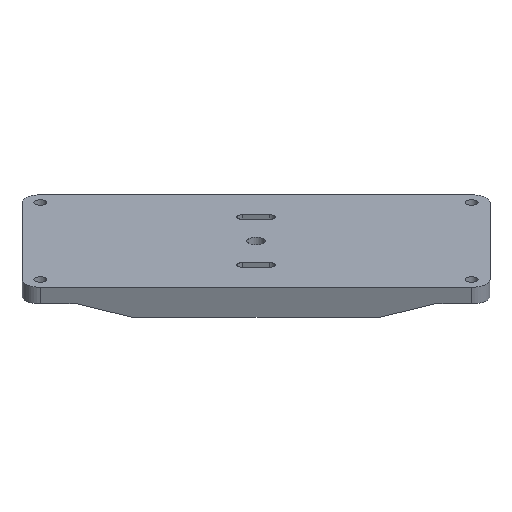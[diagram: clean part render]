
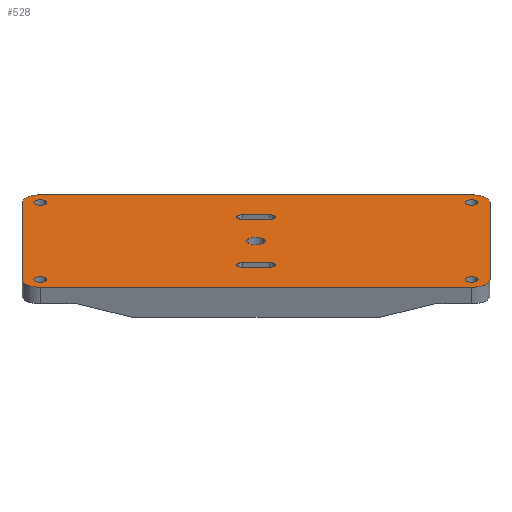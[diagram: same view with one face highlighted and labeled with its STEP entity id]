
A CAD part, top view. The second image highlights one B-rep face of the part: STEP entity #528.
In plain terms, the highlighted planar face has unit normal (0, 0.906, 0.423).
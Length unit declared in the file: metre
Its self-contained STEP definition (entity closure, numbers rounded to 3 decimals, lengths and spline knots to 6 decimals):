
#38=LINE('',#851,#82);
#39=LINE('',#856,#83);
#40=LINE('',#860,#84);
#41=LINE('',#864,#85);
#42=LINE('',#867,#86);
#43=LINE('',#872,#87);
#44=LINE('',#875,#88);
#45=LINE('',#880,#89);
#82=VECTOR('',#684,1.);
#83=VECTOR('',#687,1.);
#84=VECTOR('',#690,1.);
#85=VECTOR('',#693,1.);
#86=VECTOR('',#696,1.);
#87=VECTOR('',#699,1.);
#88=VECTOR('',#702,1.);
#89=VECTOR('',#705,1.);
#140=ORIENTED_EDGE('',*,*,#284,.T.);
#141=ORIENTED_EDGE('',*,*,#285,.T.);
#142=ORIENTED_EDGE('',*,*,#286,.T.);
#143=ORIENTED_EDGE('',*,*,#287,.T.);
#144=ORIENTED_EDGE('',*,*,#288,.T.);
#145=ORIENTED_EDGE('',*,*,#289,.T.);
#146=ORIENTED_EDGE('',*,*,#290,.T.);
#147=ORIENTED_EDGE('',*,*,#291,.F.);
#148=ORIENTED_EDGE('',*,*,#292,.T.);
#149=ORIENTED_EDGE('',*,*,#293,.F.);
#150=ORIENTED_EDGE('',*,*,#294,.T.);
#151=ORIENTED_EDGE('',*,*,#295,.T.);
#152=ORIENTED_EDGE('',*,*,#296,.T.);
#153=ORIENTED_EDGE('',*,*,#297,.F.);
#154=ORIENTED_EDGE('',*,*,#298,.T.);
#155=ORIENTED_EDGE('',*,*,#299,.F.);
#156=ORIENTED_EDGE('',*,*,#300,.T.);
#157=ORIENTED_EDGE('',*,*,#301,.F.);
#158=ORIENTED_EDGE('',*,*,#302,.T.);
#159=ORIENTED_EDGE('',*,*,#303,.F.);
#160=ORIENTED_EDGE('',*,*,#304,.T.);
#284=EDGE_CURVE('',#356,#356,#396,.F.);
#285=EDGE_CURVE('',#357,#357,#397,.F.);
#286=EDGE_CURVE('',#358,#358,#398,.F.);
#287=EDGE_CURVE('',#359,#359,#399,.F.);
#288=EDGE_CURVE('',#360,#360,#400,.T.);
#289=EDGE_CURVE('',#361,#362,#38,.T.);
#290=EDGE_CURVE('',#362,#363,#401,.T.);
#291=EDGE_CURVE('',#364,#363,#39,.T.);
#292=EDGE_CURVE('',#364,#365,#402,.T.);
#293=EDGE_CURVE('',#366,#365,#40,.T.);
#294=EDGE_CURVE('',#366,#367,#403,.T.);
#295=EDGE_CURVE('',#367,#368,#41,.T.);
#296=EDGE_CURVE('',#368,#361,#404,.T.);
#297=EDGE_CURVE('',#369,#370,#42,.T.);
#298=EDGE_CURVE('',#369,#371,#405,.F.);
#299=EDGE_CURVE('',#372,#371,#43,.T.);
#300=EDGE_CURVE('',#372,#370,#406,.F.);
#301=EDGE_CURVE('',#373,#374,#44,.T.);
#302=EDGE_CURVE('',#373,#375,#407,.F.);
#303=EDGE_CURVE('',#376,#375,#45,.T.);
#304=EDGE_CURVE('',#376,#374,#408,.F.);
#356=VERTEX_POINT('',#842);
#357=VERTEX_POINT('',#844);
#358=VERTEX_POINT('',#846);
#359=VERTEX_POINT('',#848);
#360=VERTEX_POINT('',#850);
#361=VERTEX_POINT('',#852);
#362=VERTEX_POINT('',#853);
#363=VERTEX_POINT('',#855);
#364=VERTEX_POINT('',#857);
#365=VERTEX_POINT('',#859);
#366=VERTEX_POINT('',#861);
#367=VERTEX_POINT('',#863);
#368=VERTEX_POINT('',#865);
#369=VERTEX_POINT('',#868);
#370=VERTEX_POINT('',#869);
#371=VERTEX_POINT('',#871);
#372=VERTEX_POINT('',#873);
#373=VERTEX_POINT('',#876);
#374=VERTEX_POINT('',#877);
#375=VERTEX_POINT('',#879);
#376=VERTEX_POINT('',#881);
#396=CIRCLE('',#585,0.0018);
#397=CIRCLE('',#586,0.0018);
#398=CIRCLE('',#587,0.0018);
#399=CIRCLE('',#588,0.0018);
#400=CIRCLE('',#589,0.0025);
#401=CIRCLE('',#590,0.005);
#402=CIRCLE('',#591,0.005);
#403=CIRCLE('',#592,0.005);
#404=CIRCLE('',#593,0.005);
#405=CIRCLE('',#594,0.00149);
#406=CIRCLE('',#595,0.00149);
#407=CIRCLE('',#596,0.00149);
#408=CIRCLE('',#597,0.00149);
#420=EDGE_LOOP('',(#140));
#421=EDGE_LOOP('',(#141));
#422=EDGE_LOOP('',(#142));
#423=EDGE_LOOP('',(#143));
#424=EDGE_LOOP('',(#144));
#425=EDGE_LOOP('',(#145,#146,#147,#148,#149,#150,#151,#152));
#426=EDGE_LOOP('',(#153,#154,#155,#156));
#427=EDGE_LOOP('',(#157,#158,#159,#160));
#470=FACE_BOUND('',#420,.T.);
#471=FACE_BOUND('',#421,.T.);
#472=FACE_BOUND('',#422,.T.);
#473=FACE_BOUND('',#423,.T.);
#474=FACE_BOUND('',#424,.T.);
#475=FACE_BOUND('',#425,.T.);
#476=FACE_BOUND('',#426,.T.);
#477=FACE_BOUND('',#427,.T.);
#513=PLANE('',#584);
#528=ADVANCED_FACE('',(#470,#471,#472,#473,#474,#475,#476,#477),#513,.T.);
#584=AXIS2_PLACEMENT_3D('',#840,#672,#673);
#585=AXIS2_PLACEMENT_3D('',#841,#674,#675);
#586=AXIS2_PLACEMENT_3D('',#843,#676,#677);
#587=AXIS2_PLACEMENT_3D('',#845,#678,#679);
#588=AXIS2_PLACEMENT_3D('',#847,#680,#681);
#589=AXIS2_PLACEMENT_3D('',#849,#682,#683);
#590=AXIS2_PLACEMENT_3D('',#854,#685,#686);
#591=AXIS2_PLACEMENT_3D('',#858,#688,#689);
#592=AXIS2_PLACEMENT_3D('',#862,#691,#692);
#593=AXIS2_PLACEMENT_3D('',#866,#694,#695);
#594=AXIS2_PLACEMENT_3D('',#870,#697,#698);
#595=AXIS2_PLACEMENT_3D('',#874,#700,#701);
#596=AXIS2_PLACEMENT_3D('',#878,#703,#704);
#597=AXIS2_PLACEMENT_3D('',#882,#706,#707);
#672=DIRECTION('',(0.,0.906,0.423));
#673=DIRECTION('',(1.,0.,0.));
#674=DIRECTION('',(0.,0.906,0.423));
#675=DIRECTION('',(-1.,0.,0.));
#676=DIRECTION('',(0.,0.906,0.423));
#677=DIRECTION('',(-1.,0.,0.));
#678=DIRECTION('',(0.,0.906,0.423));
#679=DIRECTION('',(-1.,0.,0.));
#680=DIRECTION('',(0.,0.906,0.423));
#681=DIRECTION('',(-1.,0.,0.));
#682=DIRECTION('',(0.,-0.906,-0.423));
#683=DIRECTION('',(1.,0.,0.));
#684=DIRECTION('',(1.,0.,0.));
#685=DIRECTION('',(0.,0.906,0.423));
#686=DIRECTION('',(-1.,0.,0.));
#687=DIRECTION('',(0.,-0.423,0.906));
#688=DIRECTION('',(0.,0.906,0.423));
#689=DIRECTION('',(-1.,0.,0.));
#690=DIRECTION('',(1.,0.,0.));
#691=DIRECTION('',(0.,0.906,0.423));
#692=DIRECTION('',(-1.,0.,0.));
#693=DIRECTION('',(0.,-0.423,0.906));
#694=DIRECTION('',(0.,0.906,0.423));
#695=DIRECTION('',(-1.,0.,0.));
#696=DIRECTION('',(-1.,0.,0.));
#697=DIRECTION('',(0.,0.906,0.423));
#698=DIRECTION('',(-1.,0.,0.));
#699=DIRECTION('',(1.,0.,0.));
#700=DIRECTION('',(0.,0.906,0.423));
#701=DIRECTION('',(-1.,0.,0.));
#702=DIRECTION('',(1.,0.,0.));
#703=DIRECTION('',(0.,0.906,0.423));
#704=DIRECTION('',(-1.,0.,0.));
#705=DIRECTION('',(-1.,0.,0.));
#706=DIRECTION('',(0.,0.906,0.423));
#707=DIRECTION('',(-1.,0.,0.));
#840=CARTESIAN_POINT('',(0.,-0.225703,-0.007665));
#841=CARTESIAN_POINT('',(0.058923,-0.215138,-0.030323));
#842=CARTESIAN_POINT('',(0.057123,-0.215138,-0.030323));
#843=CARTESIAN_POINT('',(-0.058923,-0.215138,-0.030323));
#844=CARTESIAN_POINT('',(-0.060723,-0.215138,-0.030323));
#845=CARTESIAN_POINT('',(-0.058923,-0.236269,0.014993));
#846=CARTESIAN_POINT('',(-0.060723,-0.236269,0.014993));
#847=CARTESIAN_POINT('',(0.058923,-0.236269,0.014993));
#848=CARTESIAN_POINT('',(0.057123,-0.236269,0.014993));
#849=CARTESIAN_POINT('',(0.,-0.225703,-0.007665));
#850=CARTESIAN_POINT('',(0.0025,-0.225703,-0.007665));
#851=CARTESIAN_POINT('',(0.,-0.238382,0.019524));
#852=CARTESIAN_POINT('',(-0.058923,-0.238382,0.019524));
#853=CARTESIAN_POINT('',(0.058923,-0.238382,0.019524));
#854=CARTESIAN_POINT('',(0.058923,-0.236269,0.014993));
#855=CARTESIAN_POINT('',(0.063923,-0.236269,0.014993));
#856=CARTESIAN_POINT('',(0.063923,-0.225703,-0.007665));
#857=CARTESIAN_POINT('',(0.063923,-0.215138,-0.030323));
#858=CARTESIAN_POINT('',(0.058923,-0.215138,-0.030323));
#859=CARTESIAN_POINT('',(0.058923,-0.213025,-0.034854));
#860=CARTESIAN_POINT('',(0.,-0.213025,-0.034854));
#861=CARTESIAN_POINT('',(-0.058923,-0.213025,-0.034854));
#862=CARTESIAN_POINT('',(-0.058923,-0.215138,-0.030323));
#863=CARTESIAN_POINT('',(-0.063923,-0.215138,-0.030323));
#864=CARTESIAN_POINT('',(-0.063923,-0.225703,-0.007665));
#865=CARTESIAN_POINT('',(-0.063923,-0.236269,0.014993));
#866=CARTESIAN_POINT('',(-0.058923,-0.236269,0.014993));
#867=CARTESIAN_POINT('',(0.,-0.231624,0.005032));
#868=CARTESIAN_POINT('',(0.0037,-0.231624,0.005032));
#869=CARTESIAN_POINT('',(-0.0037,-0.231624,0.005032));
#870=CARTESIAN_POINT('',(0.00371,-0.232254,0.006383));
#871=CARTESIAN_POINT('',(0.0037,-0.232884,0.007733));
#872=CARTESIAN_POINT('',(0.,-0.232884,0.007733));
#873=CARTESIAN_POINT('',(-0.0037,-0.232884,0.007733));
#874=CARTESIAN_POINT('',(-0.00371,-0.232254,0.006383));
#875=CARTESIAN_POINT('',(0.,-0.219782,-0.020362));
#876=CARTESIAN_POINT('',(-0.0037,-0.219782,-0.020362));
#877=CARTESIAN_POINT('',(0.0037,-0.219782,-0.020362));
#878=CARTESIAN_POINT('',(-0.00371,-0.219153,-0.021713));
#879=CARTESIAN_POINT('',(-0.0037,-0.218523,-0.023063));
#880=CARTESIAN_POINT('',(0.,-0.218523,-0.023063));
#881=CARTESIAN_POINT('',(0.0037,-0.218523,-0.023063));
#882=CARTESIAN_POINT('',(0.00371,-0.219153,-0.021713));
